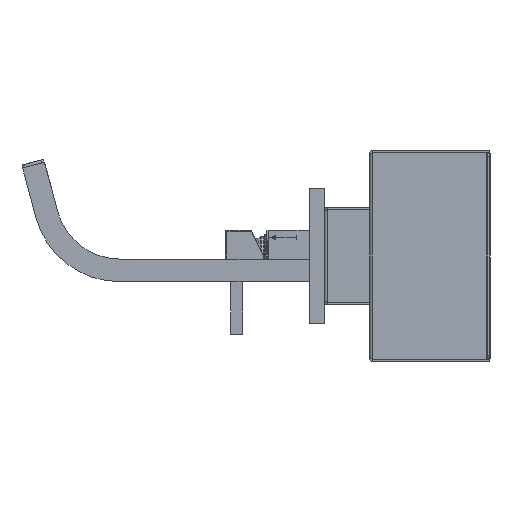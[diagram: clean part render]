
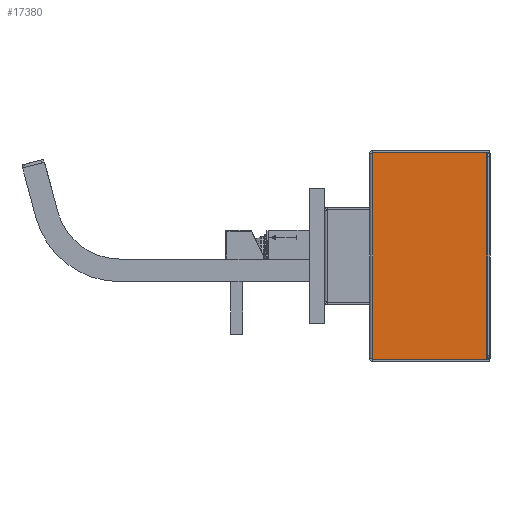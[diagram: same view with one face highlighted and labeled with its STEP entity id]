
A CAD part, left-side view. The second image highlights one B-rep face of the part: STEP entity #17380.
In plain terms, the highlighted planar face has unit normal (-1, 0, 0) as drawn and (1, 0, 0) by its records, which use the part's own axes.
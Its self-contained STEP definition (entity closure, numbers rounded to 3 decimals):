
#2432 = CARTESIAN_POINT ( 'NONE',  ( 105., 0., 0.5 ) ) ;
#2879 = VERTEX_POINT ( 'NONE', #82756 ) ;
#2891 = VECTOR ( 'NONE', #63309, 1000. ) ;
#3056 = FACE_OUTER_BOUND ( 'NONE', #38365, .T. ) ;
#3875 = EDGE_CURVE ( 'NONE', #66239, #62365, #21103, .T. ) ;
#5942 = VERTEX_POINT ( 'NONE', #46787 ) ;
#6222 = VERTEX_POINT ( 'NONE', #63095 ) ;
#7420 = DIRECTION ( 'NONE',  ( 0., 1., 0. ) ) ;
#12739 = CARTESIAN_POINT ( 'NONE',  ( 105., -68.4, 0.5 ) ) ;
#15390 = DIRECTION ( 'NONE',  ( 0., 1., 0. ) ) ;
#15714 = EDGE_CURVE ( 'NONE', #56000, #2879, #33866, .T. ) ;
#17380 = ADVANCED_FACE ( 'NONE', ( #3056 ), #35799, .T. ) ;
#18327 = ORIENTED_EDGE ( 'NONE', *, *, #46185, .F. ) ;
#18996 = CARTESIAN_POINT ( 'NONE',  ( 105., -68., 0.5 ) ) ;
#20326 = CARTESIAN_POINT ( 'NONE',  ( 105., -68.4, 0.5 ) ) ;
#20902 = VECTOR ( 'NONE', #41843, 1000. ) ;
#21103 = LINE ( 'NONE', #34341, #82326 ) ;
#23915 = LINE ( 'NONE', #84599, #27048 ) ;
#27048 = VECTOR ( 'NONE', #71685, 1000. ) ;
#27287 = VECTOR ( 'NONE', #7420, 1000. ) ;
#30694 = LINE ( 'NONE', #2432, #85477 ) ;
#33159 = ORIENTED_EDGE ( 'NONE', *, *, #51388, .T. ) ;
#33866 = LINE ( 'NONE', #12739, #75056 ) ;
#34228 = AXIS2_PLACEMENT_3D ( 'NONE', #42298, #83844, #42881 ) ;
#34341 = CARTESIAN_POINT ( 'NONE',  ( 105., 68.4, 76.5 ) ) ;
#35672 = ORIENTED_EDGE ( 'NONE', *, *, #63292, .F. ) ;
#35799 = PLANE ( 'NONE',  #34228 ) ;
#38365 = EDGE_LOOP ( 'NONE', ( #33159, #53395, #73452, #85159, #18327, #87313, #74550, #35672 ) ) ;
#41843 = DIRECTION ( 'NONE',  ( 0., 1., 0. ) ) ;
#42298 = CARTESIAN_POINT ( 'NONE',  ( 105., 0., 0. ) ) ;
#42881 = DIRECTION ( 'NONE',  ( 0., 0., -1. ) ) ;
#43300 = CARTESIAN_POINT ( 'NONE',  ( 105., 68., 76.5 ) ) ;
#46185 = EDGE_CURVE ( 'NONE', #75516, #62365, #64157, .T. ) ;
#46787 = CARTESIAN_POINT ( 'NONE',  ( 105., 68.4, 0.5 ) ) ;
#46848 = EDGE_CURVE ( 'NONE', #6222, #5942, #74629, .T. ) ;
#51388 = EDGE_CURVE ( 'NONE', #67964, #6222, #30694, .T. ) ;
#52851 = LINE ( 'NONE', #75030, #71816 ) ;
#53395 = ORIENTED_EDGE ( 'NONE', *, *, #46848, .T. ) ;
#53709 = DIRECTION ( 'NONE',  ( 0., 0., 1. ) ) ;
#56000 = VERTEX_POINT ( 'NONE', #20326 ) ;
#62365 = VERTEX_POINT ( 'NONE', #43300 ) ;
#63095 = CARTESIAN_POINT ( 'NONE',  ( 105., 68., 0.5 ) ) ;
#63292 = EDGE_CURVE ( 'NONE', #67964, #56000, #52851, .T. ) ;
#63309 = DIRECTION ( 'NONE',  ( 0., 1., 0. ) ) ;
#63553 = DIRECTION ( 'NONE',  ( 0., -1., 0. ) ) ;
#64157 = LINE ( 'NONE', #75509, #20902 ) ;
#65753 = EDGE_CURVE ( 'NONE', #5942, #66239, #23915, .T. ) ;
#66239 = VERTEX_POINT ( 'NONE', #70126 ) ;
#67964 = VERTEX_POINT ( 'NONE', #18996 ) ;
#70080 = DIRECTION ( 'NONE',  ( 0., -1., 0. ) ) ;
#70126 = CARTESIAN_POINT ( 'NONE',  ( 105., 68.4, 76.5 ) ) ;
#71685 = DIRECTION ( 'NONE',  ( 0., 0., 1. ) ) ;
#71816 = VECTOR ( 'NONE', #63553, 1000. ) ;
#73452 = ORIENTED_EDGE ( 'NONE', *, *, #65753, .T. ) ;
#74550 = ORIENTED_EDGE ( 'NONE', *, *, #15714, .F. ) ;
#74629 = LINE ( 'NONE', #75963, #2891 ) ;
#74948 = CARTESIAN_POINT ( 'NONE',  ( 105., -68.4, 76.5 ) ) ;
#75030 = CARTESIAN_POINT ( 'NONE',  ( 105., -68., 0.5 ) ) ;
#75056 = VECTOR ( 'NONE', #53709, 1000. ) ;
#75297 = CARTESIAN_POINT ( 'NONE',  ( 105., -68., 76.5 ) ) ;
#75509 = CARTESIAN_POINT ( 'NONE',  ( 105., -68., 76.5 ) ) ;
#75516 = VERTEX_POINT ( 'NONE', #75297 ) ;
#75963 = CARTESIAN_POINT ( 'NONE',  ( 105., 68., 0.5 ) ) ;
#79129 = EDGE_CURVE ( 'NONE', #2879, #75516, #81046, .T. ) ;
#81046 = LINE ( 'NONE', #74948, #27287 ) ;
#82326 = VECTOR ( 'NONE', #70080, 1000. ) ;
#82756 = CARTESIAN_POINT ( 'NONE',  ( 105., -68.4, 76.5 ) ) ;
#83844 = DIRECTION ( 'NONE',  ( 1., 0., 0. ) ) ;
#84599 = CARTESIAN_POINT ( 'NONE',  ( 105., 68.4, 0.5 ) ) ;
#85159 = ORIENTED_EDGE ( 'NONE', *, *, #3875, .T. ) ;
#85477 = VECTOR ( 'NONE', #15390, 1000. ) ;
#87313 = ORIENTED_EDGE ( 'NONE', *, *, #79129, .F. ) ;
